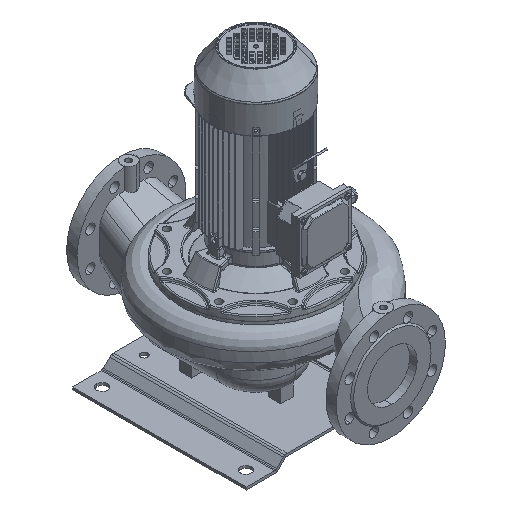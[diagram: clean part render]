
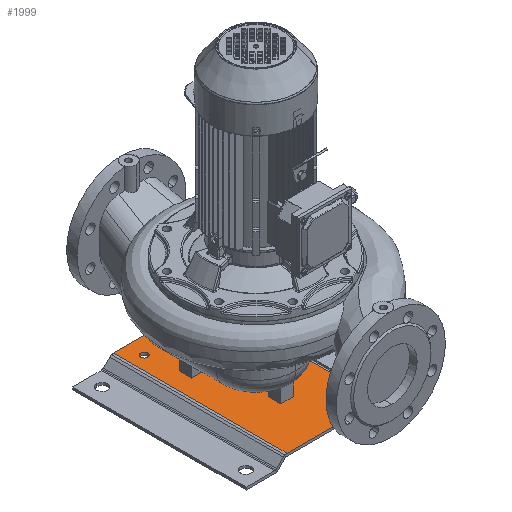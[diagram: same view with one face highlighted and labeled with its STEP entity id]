
A CAD part, isometric view. The second image highlights one B-rep face of the part: STEP entity #1999.
In plain terms, the highlighted planar face has unit normal (0, 0, 1) as drawn and (0, 1, 0) by its records, which use the part's own axes.
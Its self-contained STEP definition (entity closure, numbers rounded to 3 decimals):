
#1999=ADVANCED_FACE('',(#3653,#3654,#3655,#3656,#3657,#3658),#3659,.T.);
#2043=EDGE_CURVE('',#3733,#3734,#3735,.T.);
#3653=FACE_BOUND('',#10102,.T.);
#3654=FACE_BOUND('',#10103,.T.);
#3655=FACE_BOUND('',#10104,.T.);
#3656=FACE_BOUND('',#10105,.T.);
#3657=FACE_BOUND('',#10106,.T.);
#3658=FACE_OUTER_BOUND('',#10107,.T.);
#3659=PLANE('',#10108);
#3733=VERTEX_POINT('',#10191);
#3734=VERTEX_POINT('',#10192);
#3735=LINE('',#10193,#10194);
#10102=EDGE_LOOP('',(#17692,#17693));
#10103=EDGE_LOOP('',(#17694,#17695));
#10104=EDGE_LOOP('',(#17696,#17697));
#10105=EDGE_LOOP('',(#17698,#17699));
#10106=EDGE_LOOP('',(#17700,#17701));
#10107=EDGE_LOOP('',(#17702,#17703,#17704,#17705));
#10108=AXIS2_PLACEMENT_3D('',#17706,#17707,#17708);
#10191=CARTESIAN_POINT('',(82.556,23.0,0.0));
#10192=CARTESIAN_POINT('',(267.444,23.0,0.0));
#10193=CARTESIAN_POINT('',(78.0,23.0,0.0));
#10194=VECTOR('',#17907,1.0);
#17692=ORIENTED_EDGE('',*,*,#32739,.T.);
#17693=ORIENTED_EDGE('',*,*,#32729,.T.);
#17694=ORIENTED_EDGE('',*,*,#32742,.T.);
#17695=ORIENTED_EDGE('',*,*,#32724,.T.);
#17696=ORIENTED_EDGE('',*,*,#32748,.T.);
#17697=ORIENTED_EDGE('',*,*,#32714,.T.);
#17698=ORIENTED_EDGE('',*,*,#32754,.T.);
#17699=ORIENTED_EDGE('',*,*,#32704,.T.);
#17700=ORIENTED_EDGE('',*,*,#32760,.T.);
#17701=ORIENTED_EDGE('',*,*,#32694,.T.);
#17702=ORIENTED_EDGE('',*,*,#32777,.F.);
#17703=ORIENTED_EDGE('',*,*,#32778,.F.);
#17704=ORIENTED_EDGE('',*,*,#32678,.F.);
#17705=ORIENTED_EDGE('',*,*,#2043,.F.);
#17706=CARTESIAN_POINT('',(126.5,23.0,0.0));
#17707=DIRECTION('',(0.0,1.0,0.0));
#17708=DIRECTION('',(-1.0,0.0,0.0));
#17907=DIRECTION('',(1.0,0.0,0.0));
#32678=EDGE_CURVE('',#3734,#51630,#51631,.T.);
#32694=EDGE_CURVE('',#51651,#51655,#51657,.T.);
#32704=EDGE_CURVE('',#51669,#51673,#51675,.T.);
#32714=EDGE_CURVE('',#51687,#51691,#51693,.T.);
#32724=EDGE_CURVE('',#51705,#51709,#51711,.T.);
#32729=EDGE_CURVE('',#51714,#51718,#51720,.T.);
#32739=EDGE_CURVE('',#51718,#51714,#51734,.T.);
#32742=EDGE_CURVE('',#51709,#51705,#51737,.T.);
#32748=EDGE_CURVE('',#51691,#51687,#51743,.T.);
#32754=EDGE_CURVE('',#51673,#51669,#51749,.T.);
#32760=EDGE_CURVE('',#51655,#51651,#51755,.T.);
#32777=EDGE_CURVE('',#51778,#3733,#51779,.T.);
#32778=EDGE_CURVE('',#51630,#51778,#51780,.T.);
#51630=VERTEX_POINT('',#60869);
#51631=LINE('',#60870,#60871);
#51651=VERTEX_POINT('',#60895);
#51655=VERTEX_POINT('',#60900);
#51657=CIRCLE('',#60903,7.0);
#51669=VERTEX_POINT('',#60917);
#51673=VERTEX_POINT('',#60922);
#51675=CIRCLE('',#60925,7.0);
#51687=VERTEX_POINT('',#60939);
#51691=VERTEX_POINT('',#60944);
#51693=CIRCLE('',#60947,7.0);
#51705=VERTEX_POINT('',#60961);
#51709=VERTEX_POINT('',#60966);
#51711=CIRCLE('',#60969,7.);
#51714=VERTEX_POINT('',#60972);
#51718=VERTEX_POINT('',#60977);
#51720=CIRCLE('',#60980,7.0);
#51734=CIRCLE('',#60996,7.0);
#51737=CIRCLE('',#60999,7.);
#51743=CIRCLE('',#61005,7.0);
#51749=CIRCLE('',#61011,7.0);
#51755=CIRCLE('',#61017,7.0);
#51778=VERTEX_POINT('',#61050);
#51779=LINE('',#61051,#61052);
#51780=LINE('',#61053,#61054);
#60869=CARTESIAN_POINT('',(267.444,23.0,350.0));
#60870=CARTESIAN_POINT('',(267.444,23.0,0.0));
#60871=VECTOR('',#71214,1.0);
#60895=CARTESIAN_POINT('',(240.,23.0,308.0));
#60900=CARTESIAN_POINT('',(240.,23.0,322.0));
#60903=AXIS2_PLACEMENT_3D('',#71239,#71240,#71241);
#60917=CARTESIAN_POINT('',(110.,23.0,308.0));
#60922=CARTESIAN_POINT('',(110.,23.0,322.0));
#60925=AXIS2_PLACEMENT_3D('',#71255,#71256,#71257);
#60939=CARTESIAN_POINT('',(130.,23.0,233.0));
#60944=CARTESIAN_POINT('',(130.,23.0,247.0));
#60947=AXIS2_PLACEMENT_3D('',#71271,#71272,#71273);
#60961=CARTESIAN_POINT('',(169.198,23.0,101.083));
#60966=CARTESIAN_POINT('',(180.802,23.0,108.917));
#60969=AXIS2_PLACEMENT_3D('',#71287,#71288,#71289);
#60972=CARTESIAN_POINT('',(220.,23.0,233.0));
#60977=CARTESIAN_POINT('',(220.,23.0,247.0));
#60980=AXIS2_PLACEMENT_3D('',#71295,#71296,#71297);
#60996=AXIS2_PLACEMENT_3D('',#71312,#71313,#71314);
#60999=AXIS2_PLACEMENT_3D('',#71318,#71319,#71320);
#61005=AXIS2_PLACEMENT_3D('',#71330,#71331,#71332);
#61011=AXIS2_PLACEMENT_3D('',#71342,#71343,#71344);
#61017=AXIS2_PLACEMENT_3D('',#71354,#71355,#71356);
#61050=CARTESIAN_POINT('',(82.556,23.0,350.0));
#61051=CARTESIAN_POINT('',(82.556,23.0,0.0));
#61052=VECTOR('',#71370,1.0);
#61053=CARTESIAN_POINT('',(272.,23.0,350.0));
#61054=VECTOR('',#71371,1.);
#71214=DIRECTION('',(0.0,0.0,1.0));
#71239=CARTESIAN_POINT('',(240.,23.0,315.0));
#71240=DIRECTION('',(0.0,-1.0,0.0));
#71241=DIRECTION('',(0.0,0.0,-1.0));
#71255=CARTESIAN_POINT('',(110.,23.0,315.0));
#71256=DIRECTION('',(0.0,-1.0,0.0));
#71257=DIRECTION('',(0.0,0.0,-1.0));
#71271=CARTESIAN_POINT('',(130.,23.0,240.0));
#71272=DIRECTION('',(0.0,-1.0,0.0));
#71273=DIRECTION('',(0.0,0.0,-1.0));
#71287=CARTESIAN_POINT('',(175.,23.0,105.0));
#71288=DIRECTION('',(-0.0,-1.0,0.0));
#71289=DIRECTION('',(-0.829,0.0,-0.56));
#71295=CARTESIAN_POINT('',(220.,23.0,240.0));
#71296=DIRECTION('',(0.0,-1.0,0.0));
#71297=DIRECTION('',(0.0,0.0,-1.0));
#71312=CARTESIAN_POINT('',(220.,23.0,240.0));
#71313=DIRECTION('',(0.0,-1.0,0.0));
#71314=DIRECTION('',(0.0,0.0,-1.0));
#71318=CARTESIAN_POINT('',(175.,23.0,105.0));
#71319=DIRECTION('',(-0.0,-1.0,0.0));
#71320=DIRECTION('',(-0.829,0.0,-0.56));
#71330=CARTESIAN_POINT('',(130.,23.0,240.0));
#71331=DIRECTION('',(0.0,-1.0,0.0));
#71332=DIRECTION('',(0.0,0.0,-1.0));
#71342=CARTESIAN_POINT('',(110.,23.0,315.0));
#71343=DIRECTION('',(0.0,-1.0,0.0));
#71344=DIRECTION('',(0.0,0.0,-1.0));
#71354=CARTESIAN_POINT('',(240.,23.0,315.0));
#71355=DIRECTION('',(0.0,-1.0,0.0));
#71356=DIRECTION('',(0.0,0.0,-1.0));
#71370=DIRECTION('',(0.0,0.0,-1.0));
#71371=DIRECTION('',(-1.0,0.0,0.0));
